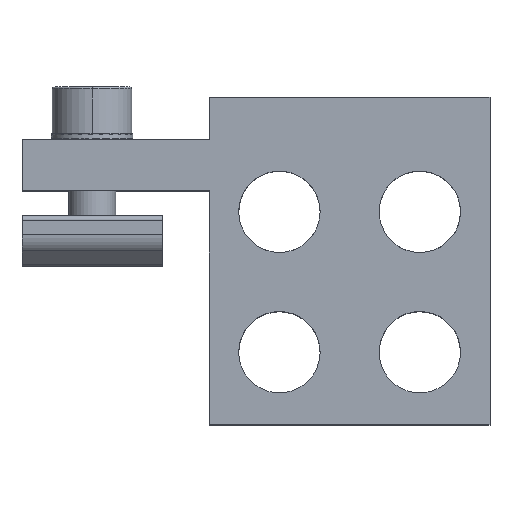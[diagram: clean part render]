
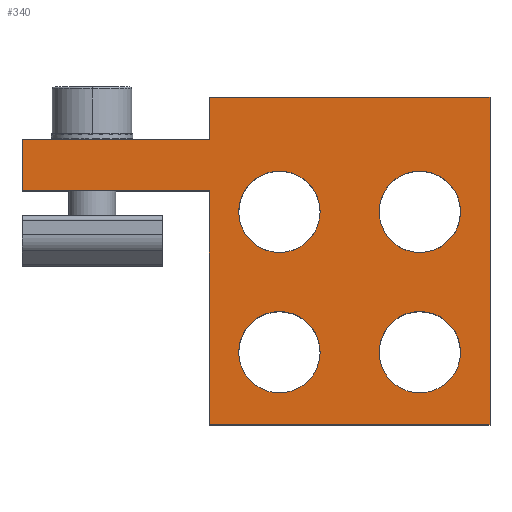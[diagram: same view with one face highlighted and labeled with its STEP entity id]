
A CAD part, top view. The second image highlights one B-rep face of the part: STEP entity #340.
In plain terms, the highlighted planar face has unit normal (0, 0, 1).
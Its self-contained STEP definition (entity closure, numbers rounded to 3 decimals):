
#88 = CARTESIAN_POINT ( 'NONE',  ( -130.276, 41.264, 56.906 ) ) ;
#195 = DIRECTION ( 'NONE',  ( 1., 0., 0. ) ) ;
#217 = CIRCLE ( 'NONE', #9525, 4.35 ) ;
#273 = VERTEX_POINT ( 'NONE', #13745 ) ;
#282 = CARTESIAN_POINT ( 'NONE',  ( -118.426, 33.514, 56.906 ) ) ;
#340 = ADVANCED_FACE ( 'NONE', ( #6169, #942, #583, #9085, #3205 ), #10122, .T. ) ;
#342 = VECTOR ( 'NONE', #9133, 1000. ) ;
#351 = CARTESIAN_POINT ( 'NONE',  ( -127.126, 18.514, 56.906 ) ) ;
#395 = CARTESIAN_POINT ( 'NONE',  ( -130.276, 10.764, 56.906 ) ) ;
#410 = EDGE_CURVE ( 'NONE', #13044, #3140, #3726, .T. ) ;
#583 = FACE_BOUND ( 'NONE', #10714, .T. ) ;
#669 = DIRECTION ( 'NONE',  ( 1., 0., 0. ) ) ;
#714 = EDGE_CURVE ( 'NONE', #11711, #11918, #1260, .T. ) ;
#815 = EDGE_CURVE ( 'NONE', #11918, #11711, #8549, .T. ) ;
#839 = CARTESIAN_POINT ( 'NONE',  ( -150.276, 41.264, 56.906 ) ) ;
#868 = VERTEX_POINT ( 'NONE', #839 ) ;
#942 = FACE_BOUND ( 'NONE', #3097, .T. ) ;
#1260 = CIRCLE ( 'NONE', #11669, 4.35 ) ;
#1309 = EDGE_CURVE ( 'NONE', #9863, #11810, #217, .T. ) ;
#1397 = CARTESIAN_POINT ( 'NONE',  ( -125.276, 45.764, 56.906 ) ) ;
#1411 = CARTESIAN_POINT ( 'NONE',  ( -130.276, 28.264, 56.906 ) ) ;
#1516 = CARTESIAN_POINT ( 'NONE',  ( -125.276, 41.264, 56.906 ) ) ;
#1577 = AXIS2_PLACEMENT_3D ( 'NONE', #11866, #5316, #12971 ) ;
#1580 = DIRECTION ( 'NONE',  ( 1., 0., 0. ) ) ;
#1598 = DIRECTION ( 'NONE',  ( 0., 0., -1. ) ) ;
#1770 = DIRECTION ( 'NONE',  ( 0., 0., 1. ) ) ;
#1862 = VERTEX_POINT ( 'NONE', #10241 ) ;
#1949 = VERTEX_POINT ( 'NONE', #8175 ) ;
#2097 = CARTESIAN_POINT ( 'NONE',  ( -107.776, 18.514, 56.906 ) ) ;
#2128 = CARTESIAN_POINT ( 'NONE',  ( -122.776, 33.514, 56.906 ) ) ;
#2213 = DIRECTION ( 'NONE',  ( 0., -1., 0. ) ) ;
#2430 = ORIENTED_EDGE ( 'NONE', *, *, #7721, .T. ) ;
#2497 = EDGE_CURVE ( 'NONE', #3140, #13044, #2655, .T. ) ;
#2522 = LINE ( 'NONE', #1411, #8433 ) ;
#2562 = EDGE_CURVE ( 'NONE', #5346, #868, #6158, .T. ) ;
#2571 = EDGE_CURVE ( 'NONE', #273, #4813, #8749, .T. ) ;
#2638 = ORIENTED_EDGE ( 'NONE', *, *, #4841, .T. ) ;
#2655 = CIRCLE ( 'NONE', #11869, 4.35 ) ;
#2769 = CARTESIAN_POINT ( 'NONE',  ( -103.426, 18.514, 56.906 ) ) ;
#2862 = LINE ( 'NONE', #10987, #14194 ) ;
#3014 = ORIENTED_EDGE ( 'NONE', *, *, #13626, .T. ) ;
#3077 = CARTESIAN_POINT ( 'NONE',  ( -107.776, 33.514, 56.906 ) ) ;
#3097 = EDGE_LOOP ( 'NONE', ( #9769, #11270 ) ) ;
#3140 = VERTEX_POINT ( 'NONE', #3164 ) ;
#3164 = CARTESIAN_POINT ( 'NONE',  ( -127.126, 33.514, 56.906 ) ) ;
#3205 = FACE_OUTER_BOUND ( 'NONE', #5737, .T. ) ;
#3238 = DIRECTION ( 'NONE',  ( 1., 0., 0. ) ) ;
#3372 = VERTEX_POINT ( 'NONE', #395 ) ;
#3377 = AXIS2_PLACEMENT_3D ( 'NONE', #9963, #10446, #9464 ) ;
#3552 = DIRECTION ( 'NONE',  ( 1., 0., 0. ) ) ;
#3726 = CIRCLE ( 'NONE', #7118, 4.35 ) ;
#3770 = AXIS2_PLACEMENT_3D ( 'NONE', #3077, #4971, #3552 ) ;
#3811 = ORIENTED_EDGE ( 'NONE', *, *, #2497, .F. ) ;
#3824 = DIRECTION ( 'NONE',  ( 1., 0., 0. ) ) ;
#3999 = EDGE_CURVE ( 'NONE', #1862, #7016, #5565, .T. ) ;
#4353 = ORIENTED_EDGE ( 'NONE', *, *, #10651, .T. ) ;
#4450 = CARTESIAN_POINT ( 'NONE',  ( -130.276, 45.764, 56.906 ) ) ;
#4520 = VECTOR ( 'NONE', #6977, 1000. ) ;
#4719 = ORIENTED_EDGE ( 'NONE', *, *, #9152, .T. ) ;
#4784 = LINE ( 'NONE', #12083, #12824 ) ;
#4813 = VERTEX_POINT ( 'NONE', #8506 ) ;
#4841 = EDGE_CURVE ( 'NONE', #11810, #9863, #12834, .T. ) ;
#4971 = DIRECTION ( 'NONE',  ( 0., 0., -1. ) ) ;
#5070 = EDGE_CURVE ( 'NONE', #4813, #8008, #7459, .T. ) ;
#5175 = VERTEX_POINT ( 'NONE', #13942 ) ;
#5316 = DIRECTION ( 'NONE',  ( 0., 0., -1. ) ) ;
#5346 = VERTEX_POINT ( 'NONE', #88 ) ;
#5395 = ORIENTED_EDGE ( 'NONE', *, *, #2562, .T. ) ;
#5565 = CIRCLE ( 'NONE', #13112, 4.35 ) ;
#5737 = EDGE_LOOP ( 'NONE', ( #13922, #12056, #4353, #5395, #10392, #11540, #2430, #4719 ) ) ;
#5818 = VECTOR ( 'NONE', #13642, 1000. ) ;
#5927 = DIRECTION ( 'NONE',  ( 0., 0., 1. ) ) ;
#6158 = LINE ( 'NONE', #1516, #11962 ) ;
#6169 = FACE_BOUND ( 'NONE', #7201, .T. ) ;
#6676 = DIRECTION ( 'NONE',  ( 0., -1., 0. ) ) ;
#6808 = CARTESIAN_POINT ( 'NONE',  ( -103.426, 33.514, 56.906 ) ) ;
#6977 = DIRECTION ( 'NONE',  ( -1., 0., 0. ) ) ;
#7016 = VERTEX_POINT ( 'NONE', #2769 ) ;
#7019 = ORIENTED_EDGE ( 'NONE', *, *, #1309, .T. ) ;
#7046 = CARTESIAN_POINT ( 'NONE',  ( -112.126, 33.514, 56.906 ) ) ;
#7118 = AXIS2_PLACEMENT_3D ( 'NONE', #2128, #1770, #1580 ) ;
#7140 = CARTESIAN_POINT ( 'NONE',  ( -125.276, 10.764, 56.906 ) ) ;
#7201 = EDGE_LOOP ( 'NONE', ( #3014, #9597 ) ) ;
#7306 = DIRECTION ( 'NONE',  ( 0., 0., -1. ) ) ;
#7341 = DIRECTION ( 'NONE',  ( 0., 0., -1. ) ) ;
#7459 = LINE ( 'NONE', #1397, #4520 ) ;
#7721 = EDGE_CURVE ( 'NONE', #5175, #3372, #2522, .T. ) ;
#8008 = VERTEX_POINT ( 'NONE', #4450 ) ;
#8043 = CARTESIAN_POINT ( 'NONE',  ( -125.276, 35.764, 56.906 ) ) ;
#8175 = CARTESIAN_POINT ( 'NONE',  ( -150.276, 35.764, 56.906 ) ) ;
#8433 = VECTOR ( 'NONE', #9178, 1000. ) ;
#8506 = CARTESIAN_POINT ( 'NONE',  ( -100.276, 45.764, 56.906 ) ) ;
#8549 = CIRCLE ( 'NONE', #3770, 4.35 ) ;
#8715 = EDGE_CURVE ( 'NONE', #868, #1949, #4784, .T. ) ;
#8741 = VECTOR ( 'NONE', #3824, 1000. ) ;
#8749 = LINE ( 'NONE', #9281, #5818 ) ;
#9085 = FACE_BOUND ( 'NONE', #9346, .T. ) ;
#9133 = DIRECTION ( 'NONE',  ( 1., 0., 0. ) ) ;
#9152 = EDGE_CURVE ( 'NONE', #3372, #273, #11613, .T. ) ;
#9178 = DIRECTION ( 'NONE',  ( 0., -1., 0. ) ) ;
#9194 = LINE ( 'NONE', #8043, #342 ) ;
#9244 = DIRECTION ( 'NONE',  ( 1., 0., 0. ) ) ;
#9281 = CARTESIAN_POINT ( 'NONE',  ( -100.276, 28.264, 56.906 ) ) ;
#9337 = CARTESIAN_POINT ( 'NONE',  ( -107.776, 33.514, 56.906 ) ) ;
#9346 = EDGE_LOOP ( 'NONE', ( #11108, #3811 ) ) ;
#9464 = DIRECTION ( 'NONE',  ( 1., 0., 0. ) ) ;
#9525 = AXIS2_PLACEMENT_3D ( 'NONE', #10846, #7306, #195 ) ;
#9597 = ORIENTED_EDGE ( 'NONE', *, *, #3999, .T. ) ;
#9769 = ORIENTED_EDGE ( 'NONE', *, *, #714, .T. ) ;
#9863 = VERTEX_POINT ( 'NONE', #351 ) ;
#9867 = DIRECTION ( 'NONE',  ( 0., 0., -1. ) ) ;
#9963 = CARTESIAN_POINT ( 'NONE',  ( -150.276, 10.764, 56.906 ) ) ;
#10122 = PLANE ( 'NONE',  #3377 ) ;
#10241 = CARTESIAN_POINT ( 'NONE',  ( -112.126, 18.514, 56.906 ) ) ;
#10389 = DIRECTION ( 'NONE',  ( -1., 0., 0. ) ) ;
#10392 = ORIENTED_EDGE ( 'NONE', *, *, #8715, .T. ) ;
#10446 = DIRECTION ( 'NONE',  ( 0., 0., 1. ) ) ;
#10486 = AXIS2_PLACEMENT_3D ( 'NONE', #2097, #9867, #3238 ) ;
#10651 = EDGE_CURVE ( 'NONE', #8008, #5346, #2862, .T. ) ;
#10714 = EDGE_LOOP ( 'NONE', ( #2638, #7019 ) ) ;
#10741 = CIRCLE ( 'NONE', #10486, 4.35 ) ;
#10846 = CARTESIAN_POINT ( 'NONE',  ( -122.776, 18.514, 56.906 ) ) ;
#10987 = CARTESIAN_POINT ( 'NONE',  ( -130.276, 28.264, 56.906 ) ) ;
#11108 = ORIENTED_EDGE ( 'NONE', *, *, #410, .F. ) ;
#11270 = ORIENTED_EDGE ( 'NONE', *, *, #815, .T. ) ;
#11540 = ORIENTED_EDGE ( 'NONE', *, *, #13888, .T. ) ;
#11613 = LINE ( 'NONE', #7140, #8741 ) ;
#11669 = AXIS2_PLACEMENT_3D ( 'NONE', #9337, #1598, #9244 ) ;
#11711 = VERTEX_POINT ( 'NONE', #6808 ) ;
#11810 = VERTEX_POINT ( 'NONE', #13414 ) ;
#11866 = CARTESIAN_POINT ( 'NONE',  ( -122.776, 18.514, 56.906 ) ) ;
#11869 = AXIS2_PLACEMENT_3D ( 'NONE', #12459, #5927, #13556 ) ;
#11918 = VERTEX_POINT ( 'NONE', #7046 ) ;
#11962 = VECTOR ( 'NONE', #10389, 1000. ) ;
#12056 = ORIENTED_EDGE ( 'NONE', *, *, #5070, .T. ) ;
#12083 = CARTESIAN_POINT ( 'NONE',  ( -150.276, 28.264, 56.906 ) ) ;
#12459 = CARTESIAN_POINT ( 'NONE',  ( -122.776, 33.514, 56.906 ) ) ;
#12824 = VECTOR ( 'NONE', #2213, 1000. ) ;
#12834 = CIRCLE ( 'NONE', #1577, 4.35 ) ;
#12971 = DIRECTION ( 'NONE',  ( 1., 0., 0. ) ) ;
#13044 = VERTEX_POINT ( 'NONE', #282 ) ;
#13112 = AXIS2_PLACEMENT_3D ( 'NONE', #13850, #7341, #669 ) ;
#13414 = CARTESIAN_POINT ( 'NONE',  ( -118.426, 18.514, 56.906 ) ) ;
#13556 = DIRECTION ( 'NONE',  ( 1., 0., 0. ) ) ;
#13626 = EDGE_CURVE ( 'NONE', #7016, #1862, #10741, .T. ) ;
#13642 = DIRECTION ( 'NONE',  ( 0., 1., 0. ) ) ;
#13745 = CARTESIAN_POINT ( 'NONE',  ( -100.276, 10.764, 56.906 ) ) ;
#13850 = CARTESIAN_POINT ( 'NONE',  ( -107.776, 18.514, 56.906 ) ) ;
#13888 = EDGE_CURVE ( 'NONE', #1949, #5175, #9194, .T. ) ;
#13922 = ORIENTED_EDGE ( 'NONE', *, *, #2571, .T. ) ;
#13942 = CARTESIAN_POINT ( 'NONE',  ( -130.276, 35.764, 56.906 ) ) ;
#14194 = VECTOR ( 'NONE', #6676, 1000. ) ;
